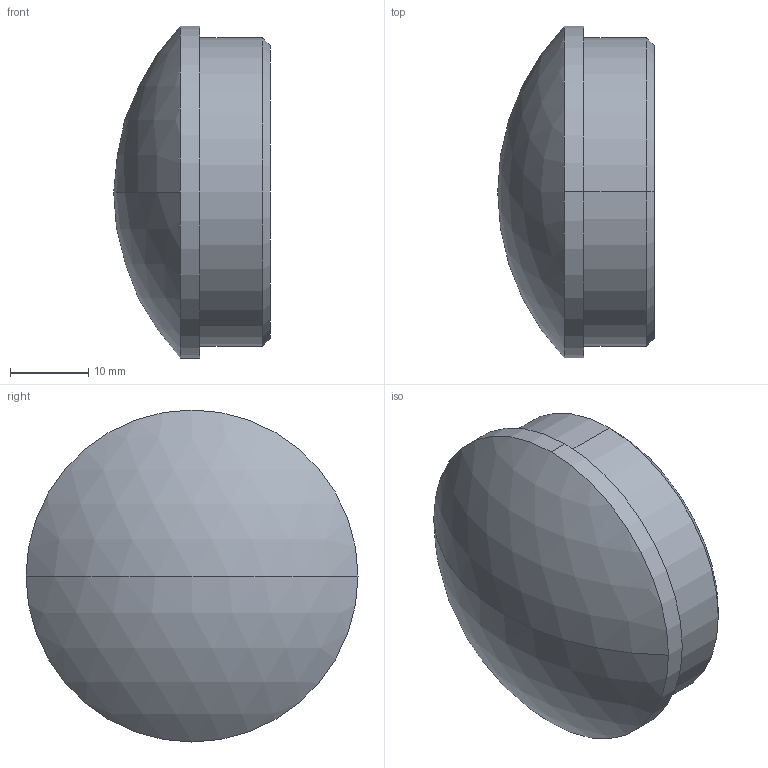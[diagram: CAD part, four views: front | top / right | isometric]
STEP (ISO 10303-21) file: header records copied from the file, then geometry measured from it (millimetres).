
FILE_DESCRIPTION (( 'STEP AP203' ), '1' );
FILE_NAME ('3D_GR1392_DN42.4x1.5_18380237.STEP', '2024-09-21T10:19:51', ( '' ), ( '' ), 'SwSTEP 2.0', 'SolidWorks 2024', '' );
FILE_SCHEMA (( 'CONFIG_CONTROL_DESIGN' ));
Length unit declared in the file: millimetre
Products named in the file (1): 3D_GR1392_DN42.4x1.5_18380237
Bounding box: 20 x 42.4 x 42.4 mm (x, y, z)
Volume: 20764.4 mm3; surface area: 4424.1 mm2
Topology: 1 solids, 1 shells, 10 faces, 20 edges, 13 vertices
Faces by surface type: cylinder 4, cone 2, sphere 2, plane 2
Entity records: 347 total; most frequent: DIRECTION 56, CARTESIAN_POINT 44, ORIENTED_EDGE 40, AXIS2_PLACEMENT_3D 25, EDGE_CURVE 20, CIRCLE 14, VERTEX_POINT 13, EDGE_LOOP 11
